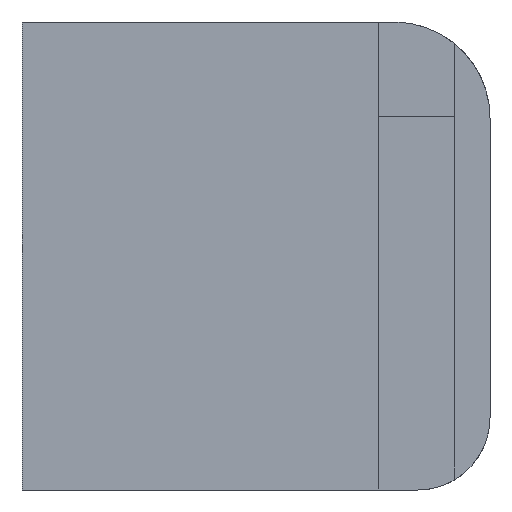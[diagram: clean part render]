
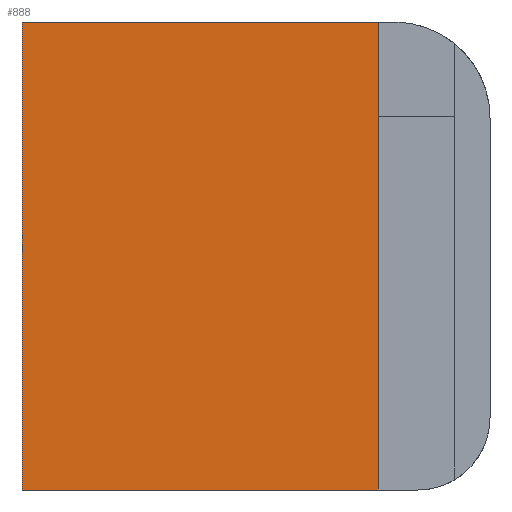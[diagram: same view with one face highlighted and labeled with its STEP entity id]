
A CAD part, left-side view. The second image highlights one B-rep face of the part: STEP entity #888.
In plain terms, the highlighted planar face has unit normal (-1, 0, 0).
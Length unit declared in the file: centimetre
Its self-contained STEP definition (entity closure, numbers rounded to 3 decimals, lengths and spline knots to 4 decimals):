
#56 = ORIENTED_EDGE ( 'NONE', *, *, #78, .T. ) ;
#78 = EDGE_CURVE ( 'NONE', #810, #368, #838, .T. ) ;
#95 = ORIENTED_EDGE ( 'NONE', *, *, #433, .T. ) ;
#104 = CARTESIAN_POINT ( 'NONE',  ( 0., 1000., 1000. ) ) ;
#118 = CARTESIAN_POINT ( 'NONE',  ( 0., 238.6018, 1000. ) ) ;
#213 = CARTESIAN_POINT ( 'NONE',  ( 0., 1000., 0. ) ) ;
#231 = EDGE_CURVE ( 'NONE', #1105, #1342, #464, .T. ) ;
#242 = ORIENTED_EDGE ( 'NONE', *, *, #231, .F. ) ;
#327 = CARTESIAN_POINT ( 'NONE',  ( 0., 1000., 1000. ) ) ;
#347 = LINE ( 'NONE', #552, #496 ) ;
#368 = VERTEX_POINT ( 'NONE', #602 ) ;
#408 = DIRECTION ( 'NONE',  ( 0., 0., -1. ) ) ;
#418 = DIRECTION ( 'NONE',  ( 1., 0., 0. ) ) ;
#433 = EDGE_CURVE ( 'NONE', #1105, #810, #1061, .T. ) ;
#464 = LINE ( 'NONE', #550, #1246 ) ;
#496 = VECTOR ( 'NONE', #1269, 100. ) ;
#550 = CARTESIAN_POINT ( 'NONE',  ( 0., 1000., 1000. ) ) ;
#552 = CARTESIAN_POINT ( 'NONE',  ( 0., 238.6018, 1000. ) ) ;
#602 = CARTESIAN_POINT ( 'NONE',  ( 0., 238.6018, 0. ) ) ;
#605 = FACE_OUTER_BOUND ( 'NONE', #1006, .T. ) ;
#617 = CARTESIAN_POINT ( 'NONE',  ( 0., 1000., 1000. ) ) ;
#637 = DIRECTION ( 'NONE',  ( 0., 0., -1. ) ) ;
#810 = VERTEX_POINT ( 'NONE', #213 ) ;
#838 = LINE ( 'NONE', #1134, #961 ) ;
#888 = ADVANCED_FACE ( 'NONE', ( #605 ), #1029, .F. ) ;
#944 = DIRECTION ( 'NONE',  ( 0., -1., 0. ) ) ;
#961 = VECTOR ( 'NONE', #944, 100. ) ;
#992 = AXIS2_PLACEMENT_3D ( 'NONE', #104, #418, #408 ) ;
#1006 = EDGE_LOOP ( 'NONE', ( #56, #1285, #242, #95 ) ) ;
#1029 = PLANE ( 'NONE',  #992 ) ;
#1061 = LINE ( 'NONE', #617, #1069 ) ;
#1069 = VECTOR ( 'NONE', #637, 100. ) ;
#1089 = EDGE_CURVE ( 'NONE', #1342, #368, #347, .T. ) ;
#1105 = VERTEX_POINT ( 'NONE', #327 ) ;
#1134 = CARTESIAN_POINT ( 'NONE',  ( 0., 1000., 0. ) ) ;
#1198 = DIRECTION ( 'NONE',  ( 0., -1., 0. ) ) ;
#1246 = VECTOR ( 'NONE', #1198, 100. ) ;
#1269 = DIRECTION ( 'NONE',  ( 0., 0., -1. ) ) ;
#1285 = ORIENTED_EDGE ( 'NONE', *, *, #1089, .F. ) ;
#1342 = VERTEX_POINT ( 'NONE', #118 ) ;
